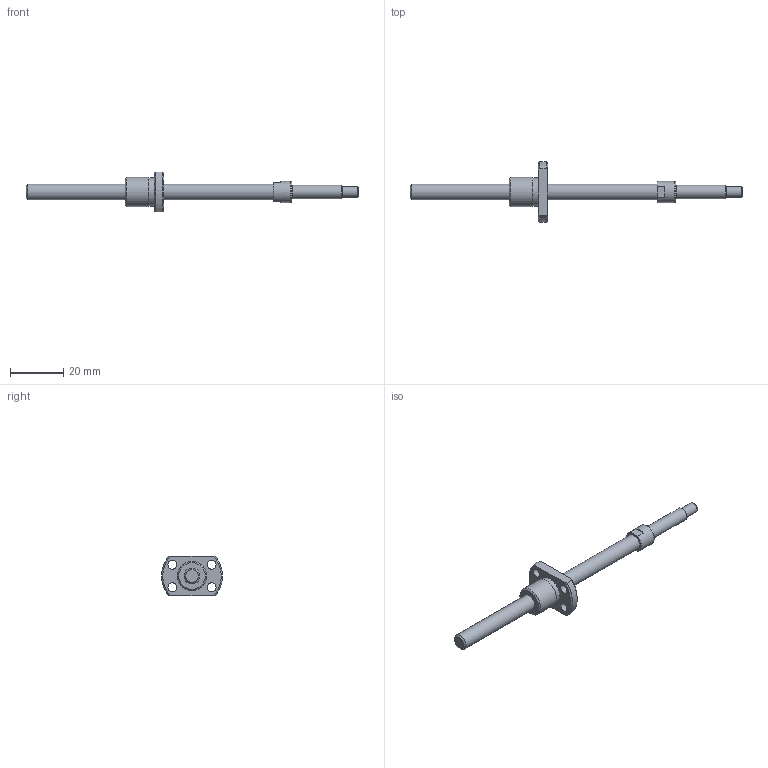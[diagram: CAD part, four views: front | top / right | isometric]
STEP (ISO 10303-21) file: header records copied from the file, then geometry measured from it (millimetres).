
FILE_DESCRIPTION(/* description */ ('STEP AP214'),/* implementation_level */ '2;1');
FILE_NAME(/* name */ 'PSRT0601K-89R125C5A0X(A37.3)',/* time_stamp */ '2026-08-06T16:11:42+02:00',/* author */ ('License CC BY-ND 4.0'),/* organization */ ('CADENAS'),/* preprocessor_version */ 'ST-DEVELOPER v20',/* originating_system */ 'PARTsolutions',/* authorisation */ ' ');
FILE_SCHEMA (('AUTOMOTIVE_DESIGN {1 0 10303 214 3 1 1}'));
Length unit declared in the file: millimetre
Products named in the file (3): PSRT0601K-89R125C5A0X(A37.3); PSRT0601KA125_shaft; PSR0601K_nut
Assembly tree (2 placements, depth 2):
  PSRT0601K-89R125C5A0X(A37.3)
    PSRT0601KA125_shaft
    PSR0601K_nut
Bounding box: 125 x 22.93 x 15 mm (x, y, z)
Volume: 5014.7 mm3; surface area: 3913 mm2
Topology: 2 solids, 2 shells, 38 faces, 81 edges, 52 vertices
Faces by surface type: plane 15, cylinder 13, cone 9, torus 1
Full cylindrical faces by diameter (mm): 3.4 x4, 4 x1, 5 x1, 6 x2, 8 x1, 10.6 x1, 11 x1
Entity records: 1045 total; most frequent: CARTESIAN_POINT 179, DIRECTION 176, ORIENTED_EDGE 126, AXIS2_PLACEMENT_3D 80, EDGE_LOOP 70, FACE_BOUND 70, EDGE_CURVE 63, VERTEX_POINT 51
